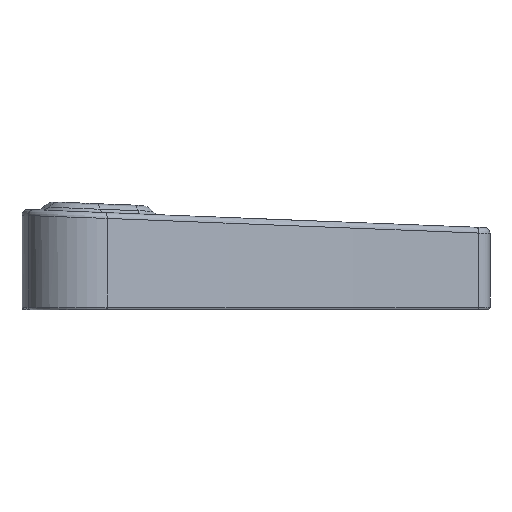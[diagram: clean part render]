
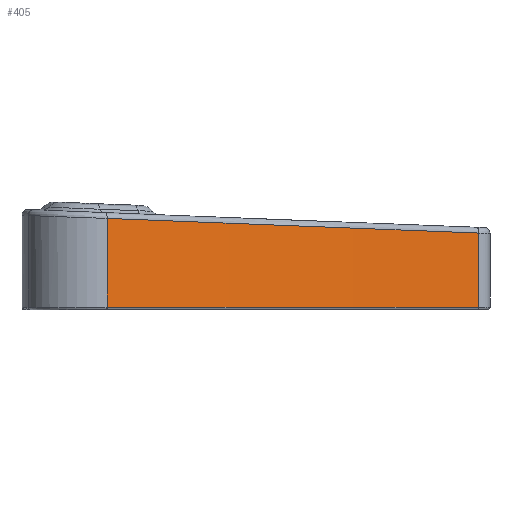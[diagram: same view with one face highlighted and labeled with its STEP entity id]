
A CAD part, left-side view. The second image highlights one B-rep face of the part: STEP entity #405.
In plain terms, the highlighted cylindrical face has radius 425.205 mm (diameter 850.41 mm), a partial arc.
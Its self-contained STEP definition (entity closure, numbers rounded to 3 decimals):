
#138=CYLINDRICAL_SURFACE('',#1252,425.205);
#154=FACE_OUTER_BOUND('',#496,.T.);
#244=ELLIPSE('',#1251,425.536,425.205);
#268=LINE('',#2223,#308);
#269=LINE('',#2228,#309);
#308=VECTOR('',#1419,1.);
#309=VECTOR('',#1422,1.);
#342=CIRCLE('',#1250,425.205);
#405=ADVANCED_FACE('',(#154),#138,.F.);
#496=EDGE_LOOP('',(#630,#631,#632,#633));
#630=ORIENTED_EDGE('',*,*,#1072,.T.);
#631=ORIENTED_EDGE('',*,*,#1073,.T.);
#632=ORIENTED_EDGE('',*,*,#1074,.T.);
#633=ORIENTED_EDGE('',*,*,#1075,.T.);
#968=VERTEX_POINT('',#2224);
#969=VERTEX_POINT('',#2225);
#970=VERTEX_POINT('',#2227);
#971=VERTEX_POINT('',#2229);
#1072=EDGE_CURVE('',#968,#969,#268,.T.);
#1073=EDGE_CURVE('',#969,#970,#342,.T.);
#1074=EDGE_CURVE('',#970,#971,#269,.T.);
#1075=EDGE_CURVE('',#971,#968,#244,.T.);
#1250=AXIS2_PLACEMENT_3D('',#2226,#1420,#1421);
#1251=AXIS2_PLACEMENT_3D('',#2230,#1423,#1424);
#1252=AXIS2_PLACEMENT_3D('',#2231,#1425,#1426);
#1419=DIRECTION('',(0.,0.,-1.));
#1420=DIRECTION('',(0.,0.,-1.));
#1421=DIRECTION('',(1.,0.,0.));
#1422=DIRECTION('',(0.,0.,1.));
#1423=DIRECTION('',(0.,-0.039,0.999));
#1424=DIRECTION('',(0.,-0.999,-0.039));
#1425=DIRECTION('',(0.,0.,-1.));
#1426=DIRECTION('',(-1.,0.,0.));
#2223=CARTESIAN_POINT('',(250.433,222.678,117.5));
#2224=CARTESIAN_POINT('',(250.433,222.678,110.945));
#2225=CARTESIAN_POINT('',(250.433,222.678,95.5));
#2226=CARTESIAN_POINT('',(-150.154,80.096,95.5));
#2227=CARTESIAN_POINT('',(267.846,158.042,95.5));
#2228=CARTESIAN_POINT('',(267.846,158.042,117.5));
#2229=CARTESIAN_POINT('',(267.846,158.042,108.394));
#2230=CARTESIAN_POINT('',(-150.154,80.096,105.318));
#2231=CARTESIAN_POINT('',(-150.154,80.096,117.5));
